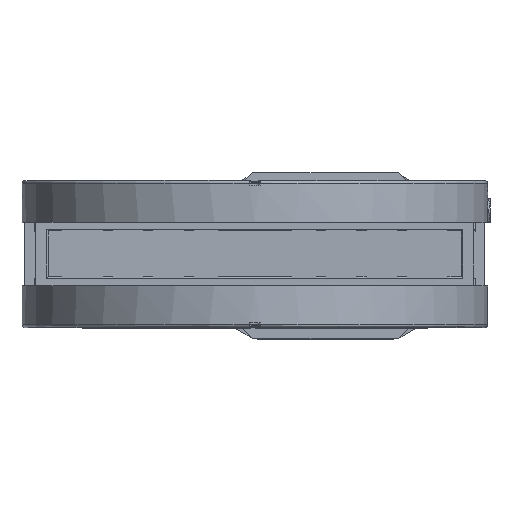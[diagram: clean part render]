
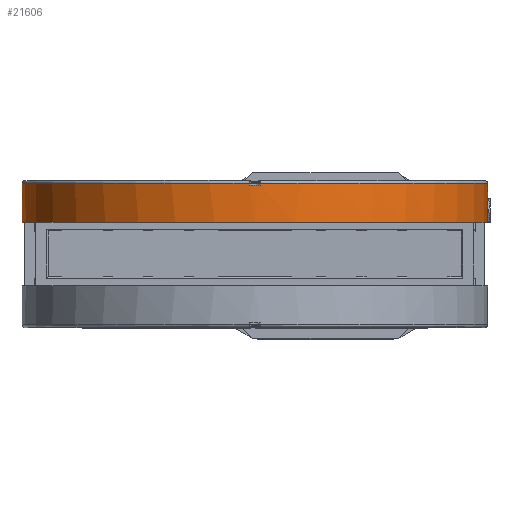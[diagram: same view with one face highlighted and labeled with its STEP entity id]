
A CAD part, top view. The second image highlights one B-rep face of the part: STEP entity #21606.
In plain terms, the highlighted cylindrical face has radius 126.6 mm (diameter 253.2 mm), a full revolution.
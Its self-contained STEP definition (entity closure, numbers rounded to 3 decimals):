
#6500=ELLIPSE('',#51996,223.466,126.6);
#6501=ELLIPSE('',#51997,223.466,126.6);
#6502=ELLIPSE('',#52004,223.466,126.6);
#6503=ELLIPSE('',#52005,223.466,126.6);
#15558=LINE('',#69749,#18922);
#15559=LINE('',#69754,#18923);
#15560=LINE('',#69758,#18924);
#15561=LINE('',#69762,#18925);
#18922=VECTOR('',#57748,1.);
#18923=VECTOR('',#57751,1.);
#18924=VECTOR('',#57754,1.);
#18925=VECTOR('',#57757,1.);
#21606=ADVANCED_FACE('BCT_REF_61925',(#24108,#24109,#24110,#24111),#23488,
 .T.);
#23488=CYLINDRICAL_SURFACE('',#52007,126.6);
#24108=FACE_BOUND('',#26074,.T.);
#24109=FACE_BOUND('',#26075,.T.);
#24110=FACE_BOUND('',#26076,.T.);
#24111=FACE_BOUND('',#26077,.T.);
#26074=EDGE_LOOP('',(#31977,#31978,#31979));
#26075=EDGE_LOOP('',(#31980,#31981,#31982,#31983,#31984,#31985,#31986,#31987));
#26076=EDGE_LOOP('',(#31988));
#26077=EDGE_LOOP('',(#31989,#31990,#31991));
#31977=ORIENTED_EDGE('',*,*,#45937,.T.);
#31978=ORIENTED_EDGE('',*,*,#45938,.T.);
#31979=ORIENTED_EDGE('',*,*,#45939,.T.);
#31980=ORIENTED_EDGE('',*,*,#45940,.T.);
#31981=ORIENTED_EDGE('',*,*,#45941,.T.);
#31982=ORIENTED_EDGE('',*,*,#45942,.F.);
#31983=ORIENTED_EDGE('',*,*,#45943,.F.);
#31984=ORIENTED_EDGE('',*,*,#45944,.T.);
#31985=ORIENTED_EDGE('',*,*,#45945,.T.);
#31986=ORIENTED_EDGE('',*,*,#45946,.F.);
#31987=ORIENTED_EDGE('',*,*,#45947,.T.);
#31988=ORIENTED_EDGE('',*,*,#45948,.T.);
#31989=ORIENTED_EDGE('',*,*,#45949,.F.);
#31990=ORIENTED_EDGE('',*,*,#45950,.F.);
#31991=ORIENTED_EDGE('',*,*,#45951,.F.);
#41324=VERTEX_POINT('',#69744);
#41325=VERTEX_POINT('',#69745);
#41326=VERTEX_POINT('',#69747);
#41327=VERTEX_POINT('',#69750);
#41328=VERTEX_POINT('',#69751);
#41329=VERTEX_POINT('',#69753);
#41330=VERTEX_POINT('',#69755);
#41331=VERTEX_POINT('',#69757);
#41332=VERTEX_POINT('',#69759);
#41333=VERTEX_POINT('',#69761);
#41334=VERTEX_POINT('',#69763);
#41335=VERTEX_POINT('',#69766);
#41336=VERTEX_POINT('',#69768);
#41337=VERTEX_POINT('',#69769);
#41338=VERTEX_POINT('',#69771);
#45937=EDGE_CURVE('',#41324,#41325,#6500,.T.);
#45938=EDGE_CURVE('',#41325,#41326,#6501,.T.);
#45939=EDGE_CURVE('',#41326,#41324,#50121,.T.);
#45940=EDGE_CURVE('',#41327,#41328,#15558,.T.);
#45941=EDGE_CURVE('',#41328,#41329,#50122,.T.);
#45942=EDGE_CURVE('',#41330,#41329,#15559,.T.);
#45943=EDGE_CURVE('',#41331,#41330,#50123,.T.);
#45944=EDGE_CURVE('',#41331,#41332,#15560,.T.);
#45945=EDGE_CURVE('',#41332,#41333,#50124,.T.);
#45946=EDGE_CURVE('',#41334,#41333,#15561,.T.);
#45947=EDGE_CURVE('',#41334,#41327,#50125,.T.);
#45948=EDGE_CURVE('',#41335,#41335,#50126,.T.);
#45949=EDGE_CURVE('',#41336,#41337,#6502,.T.);
#45950=EDGE_CURVE('',#41338,#41336,#6503,.T.);
#45951=EDGE_CURVE('',#41337,#41338,#50127,.T.);
#50121=CIRCLE('',#51998,126.6);
#50122=CIRCLE('',#51999,126.6);
#50123=CIRCLE('',#52000,126.6);
#50124=CIRCLE('',#52001,126.6);
#50125=CIRCLE('',#52002,126.6);
#50126=CIRCLE('',#52003,126.6);
#50127=CIRCLE('',#52006,126.6);
#51996=AXIS2_PLACEMENT_3D('',#69743,#57742,#57743);
#51997=AXIS2_PLACEMENT_3D('',#69746,#57744,#57745);
#51998=AXIS2_PLACEMENT_3D('',#69748,#57746,#57747);
#51999=AXIS2_PLACEMENT_3D('',#69752,#57749,#57750);
#52000=AXIS2_PLACEMENT_3D('',#69756,#57752,#57753);
#52001=AXIS2_PLACEMENT_3D('',#69760,#57755,#57756);
#52002=AXIS2_PLACEMENT_3D('',#69764,#57758,#57759);
#52003=AXIS2_PLACEMENT_3D('',#69765,#57760,#57761);
#52004=AXIS2_PLACEMENT_3D('',#69767,#57762,#57763);
#52005=AXIS2_PLACEMENT_3D('',#69770,#57764,#57765);
#52006=AXIS2_PLACEMENT_3D('',#69772,#57766,#57767);
#52007=AXIS2_PLACEMENT_3D('',#69773,#57768,#57769);
#57742=DIRECTION('',(0.,-0.567,0.824));
#57743=DIRECTION('',(0.,0.824,0.567));
#57744=DIRECTION('',(0.,-0.567,-0.824));
#57745=DIRECTION('',(0.,0.824,-0.567));
#57746=DIRECTION('',(0.,1.,0.));
#57747=DIRECTION('',(0.,0.,1.));
#57748=DIRECTION('',(0.,1.,0.));
#57749=DIRECTION('',(0.,-1.,0.));
#57750=DIRECTION('',(0.,0.,-1.));
#57751=DIRECTION('',(0.,1.,0.));
#57752=DIRECTION('',(0.,1.,0.));
#57753=DIRECTION('',(0.,0.,1.));
#57754=DIRECTION('',(0.,1.,0.));
#57755=DIRECTION('',(0.,-1.,0.));
#57756=DIRECTION('',(0.,0.,-1.));
#57757=DIRECTION('',(0.,1.,0.));
#57758=DIRECTION('',(0.,-1.,0.));
#57759=DIRECTION('',(0.,0.,1.));
#57760=DIRECTION('',(0.,1.,0.));
#57761=DIRECTION('',(0.,0.,1.));
#57762=DIRECTION('',(0.,0.567,0.824));
#57763=DIRECTION('',(0.,0.824,-0.567));
#57764=DIRECTION('',(0.,0.567,-0.824));
#57765=DIRECTION('',(0.,0.824,0.567));
#57766=DIRECTION('',(0.,-1.,0.));
#57767=DIRECTION('',(0.,0.,-1.));
#57768=DIRECTION('',(0.,1.,0.));
#57769=DIRECTION('',(0.,0.,1.));
#69743=CARTESIAN_POINT('',(0.,27.95,412.));
#69744=CARTESIAN_POINT('',(-126.57,31.95,414.75));
#69745=CARTESIAN_POINT('',(-126.6,27.95,412.));
#69746=CARTESIAN_POINT('',(0.,27.95,412.));
#69747=CARTESIAN_POINT('',(-126.57,31.95,409.25));
#69748=CARTESIAN_POINT('',(0.,31.95,412.));
#69749=CARTESIAN_POINT('',(-3.,37.45,538.564));
#69750=CARTESIAN_POINT('',(-3.,37.45,538.564));
#69751=CARTESIAN_POINT('',(-3.,38.45,538.564));
#69752=CARTESIAN_POINT('',(0.,38.45,412.));
#69753=CARTESIAN_POINT('',(-3.,38.45,285.436));
#69754=CARTESIAN_POINT('',(-3.,37.45,285.436));
#69755=CARTESIAN_POINT('',(-3.,37.45,285.436));
#69756=CARTESIAN_POINT('',(0.,37.45,412.));
#69757=CARTESIAN_POINT('',(3.,37.45,285.436));
#69758=CARTESIAN_POINT('',(3.,37.45,285.436));
#69759=CARTESIAN_POINT('',(3.,38.45,285.436));
#69760=CARTESIAN_POINT('',(0.,38.45,412.));
#69761=CARTESIAN_POINT('',(3.,38.45,538.564));
#69762=CARTESIAN_POINT('',(3.,37.45,538.564));
#69763=CARTESIAN_POINT('',(3.,37.45,538.564));
#69764=CARTESIAN_POINT('',(0.,37.45,412.));
#69765=CARTESIAN_POINT('',(0.,17.25,412.));
#69766=CARTESIAN_POINT('',(0.,17.25,538.6));
#69767=CARTESIAN_POINT('',(0.,27.95,412.));
#69768=CARTESIAN_POINT('',(126.6,27.95,412.));
#69769=CARTESIAN_POINT('',(126.57,31.95,409.25));
#69770=CARTESIAN_POINT('',(0.,27.95,412.));
#69771=CARTESIAN_POINT('',(126.57,31.95,414.75));
#69772=CARTESIAN_POINT('',(0.,31.95,412.));
#69773=CARTESIAN_POINT('',(0.,38.65,412.));
